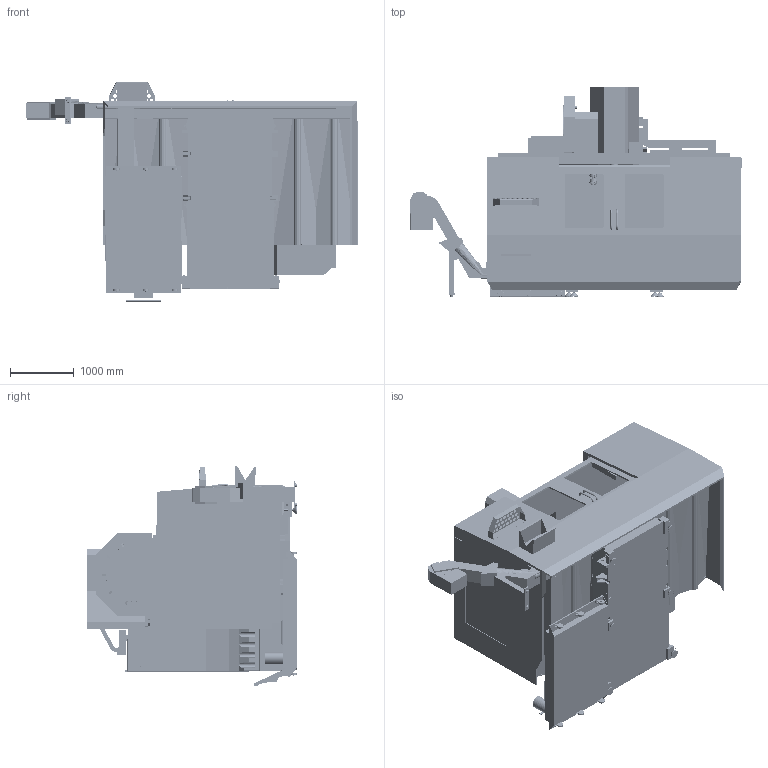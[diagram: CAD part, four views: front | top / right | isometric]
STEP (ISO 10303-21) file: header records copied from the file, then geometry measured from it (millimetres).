
FILE_DESCRIPTION (( 'STEP AP214' ), '1' );
FILE_NAME ('VM-8_6_2025.STEP', '2025-06-06T22:10:13', ( '' ), ( '' ), 'SwSTEP 2.0', 'SolidWorks 2023', '' );
FILE_SCHEMA (( 'AUTOMOTIVE_DESIGN' ));
Length unit declared in the file: inch
Products named in the file (26): VM-8- 30 PKT TOOL CHANGER ARM DOWN; VM-8-  T-SLOT TABLE; VM-8- INCH TABLE; VM-8- QUAD AUGER FLOOR; VM-8- METRIC TABLE; VM-8- 50 PKT TOOL CHANGER ARM UP; VM-8- 50 PKT TOOL CHANGER; VM-8- 95 GALLON COOLANT TANK; VM-8- BASE AND COLUMN; VM-8- CONTROL PANEL; VM-8- Z AXIS; VM-8- 30 PKT TOOL CHANGER; VM-8- CHIP CHUTE; VM-8- HSKA63 SPINDLE; VM-8- 40T SPINDLE; VM-8- ANCHOR PATTERN; VM-8- 50 PKT TOOL CHANGER ARM DOWN; VM-8- LEVELING PADS; VM-8- 30 PKT TOOL CHANGER ARM UP; VM-8- FLOOR; VM-8- WAYCOVERS; VM-8- SADDLE; VM-8_6_2025; VM-8- ENCLOSURE; VM-8- QUAD AUGER CONVEYOR; VM-8- AUTO DOORS
Assembly tree (25 placements, depth 2):
  VM-8_6_2025
    VM-8- LEVELING PADS
    VM-8- BASE AND COLUMN
    VM-8- SADDLE
    VM-8-  T-SLOT TABLE
    VM-8- INCH TABLE
    VM-8- METRIC TABLE
    VM-8- WAYCOVERS
    VM-8- Z AXIS
    VM-8- 40T SPINDLE
    VM-8- HSKA63 SPINDLE
    VM-8- FLOOR
    VM-8- QUAD AUGER FLOOR
    VM-8- CHIP CHUTE
    VM-8- QUAD AUGER CONVEYOR
    VM-8- ENCLOSURE
    VM-8- AUTO DOORS
    VM-8- CONTROL PANEL
    VM-8- 95 GALLON COOLANT TANK
    VM-8- ANCHOR PATTERN
    VM-8- 30 PKT TOOL CHANGER
    VM-8- 30 PKT TOOL CHANGER ARM UP
    VM-8- 30 PKT TOOL CHANGER ARM DOWN
    VM-8- 50 PKT TOOL CHANGER
    VM-8- 50 PKT TOOL CHANGER ARM UP
    VM-8- 50 PKT TOOL CHANGER ARM DOWN
Bounding box: 5198.31 x 3282.9 x 3456.58 mm (x, y, z)
Volume: 7199038182.3 mm3; surface area: 214065960.4 mm2
Topology: 73 solids, 103 shells, 17140 faces, 43446 edges, 27421 vertices
Faces by surface type: plane 11332, cylinder 3537, cone 1240, bspline 593, torus 279, sphere 159
Entity records: 566751 total; most frequent: CARTESIAN_POINT 155170, ORIENTED_EDGE 86636, DIRECTION 82378, EDGE_CURVE 43318, LINE 30862, VECTOR 30862, VERTEX_POINT 27419, AXIS2_PLACEMENT_3D 25758
